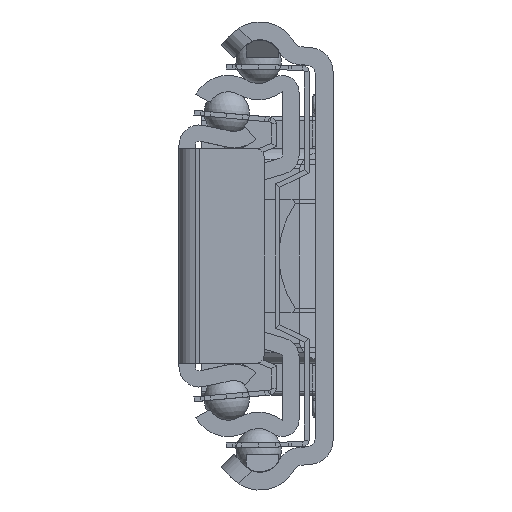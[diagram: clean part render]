
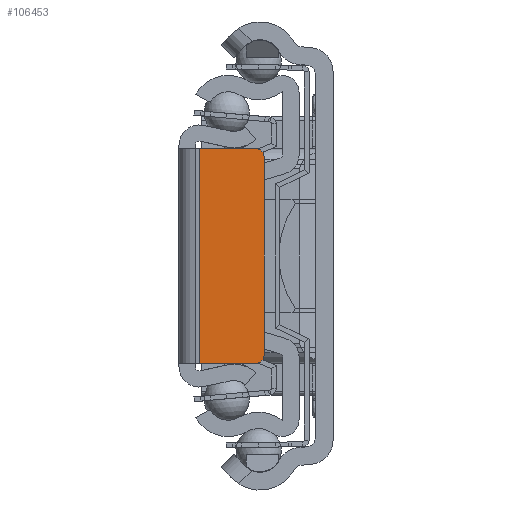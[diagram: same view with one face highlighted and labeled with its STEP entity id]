
A CAD part, left-side view. The second image highlights one B-rep face of the part: STEP entity #106453.
In plain terms, the highlighted planar face has unit normal (-1, 0, 0).
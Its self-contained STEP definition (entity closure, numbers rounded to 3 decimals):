
#101806=CARTESIAN_POINT('',(0.,-9.,-12.25));
#101807=DIRECTION('',(-1.,0.,0.));
#101808=DIRECTION('',(0.,0.,-1.));
#101809=AXIS2_PLACEMENT_3D('',#101806,#101807,#101808);
#101811=DIRECTION('',(0.,0.,-1.));
#101812=VECTOR('',#101811,26.5);
#101813=CARTESIAN_POINT('',(0.,-2.,13.25));
#101814=LINE('',#101813,#101812);
#101815=CARTESIAN_POINT('',(0.,-9.,12.25));
#101816=DIRECTION('',(-1.,0.,0.));
#101817=DIRECTION('',(0.,-1.,0.));
#101818=AXIS2_PLACEMENT_3D('',#101815,#101816,#101817);
#101837=DIRECTION('',(0.,-1.,0.));
#101838=VECTOR('',#101837,7.);
#101839=CARTESIAN_POINT('',(0.,-2.,-13.25));
#101840=LINE('',#101839,#101838);
#102687=DIRECTION('',(0.,-1.,0.));
#102688=VECTOR('',#102687,7.);
#102689=CARTESIAN_POINT('',(0.,-2.,13.25));
#102690=LINE('',#102689,#102688);
#102708=DIRECTION('',(0.,0.,1.));
#102709=VECTOR('',#102708,24.5);
#102710=CARTESIAN_POINT('',(0.,-10.,-12.25));
#102711=LINE('',#102710,#102709);
#105438=CARTESIAN_POINT('',(0.,-2.,-13.25));
#105440=VERTEX_POINT('',#105438);
#105447=CARTESIAN_POINT('',(0.,-2.,13.25));
#105449=VERTEX_POINT('',#105447);
#105466=CARTESIAN_POINT('',(0.,-9.,-13.25));
#105467=CARTESIAN_POINT('',(0.,-10.,-12.25));
#105468=VERTEX_POINT('',#105466);
#105469=VERTEX_POINT('',#105467);
#105478=CARTESIAN_POINT('',(0.,-10.,12.25));
#105479=VERTEX_POINT('',#105478);
#105480=CARTESIAN_POINT('',(0.,-9.,13.25));
#105481=VERTEX_POINT('',#105480);
#106435=CARTESIAN_POINT('',(0.,0.5,-13.25));
#106436=DIRECTION('',(-1.,0.,0.));
#106437=DIRECTION('',(0.,-1.,0.));
#106438=AXIS2_PLACEMENT_3D('',#106435,#106436,#106437);
#106439=PLANE('',#106438);
#106440=ORIENTED_EDGE('',*,*,#106425,.F.);
#106442=ORIENTED_EDGE('',*,*,#106441,.F.);
#106444=ORIENTED_EDGE('',*,*,#106443,.F.);
#106446=ORIENTED_EDGE('',*,*,#106445,.T.);
#106448=ORIENTED_EDGE('',*,*,#106447,.F.);
#106450=ORIENTED_EDGE('',*,*,#106449,.F.);
#106451=EDGE_LOOP('',(#106440,#106442,#106444,#106446,#106448,#106450));
#106452=FACE_OUTER_BOUND('',#106451,.F.);
#101810=CIRCLE('',#101809,1.);
#101819=CIRCLE('',#101818,1.);
#106425=EDGE_CURVE('',#105468,#105469,#101810,.T.);
#106441=EDGE_CURVE('',#105440,#105468,#101840,.T.);
#106443=EDGE_CURVE('',#105449,#105440,#101814,.T.);
#106445=EDGE_CURVE('',#105449,#105481,#102690,.T.);
#106447=EDGE_CURVE('',#105479,#105481,#101819,.T.);
#106449=EDGE_CURVE('',#105469,#105479,#102711,.T.);
#106453=ADVANCED_FACE('',(#106452),#106439,.T.);
